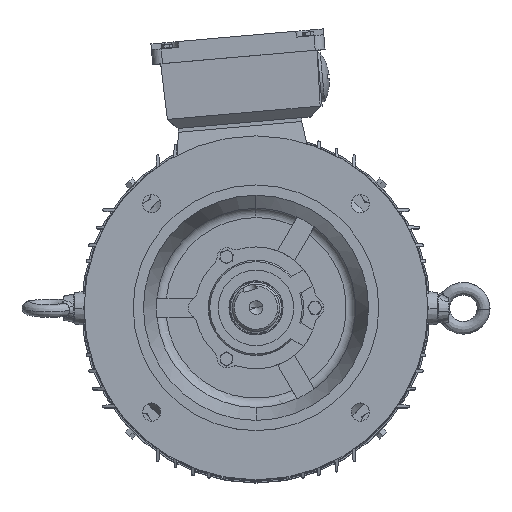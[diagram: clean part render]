
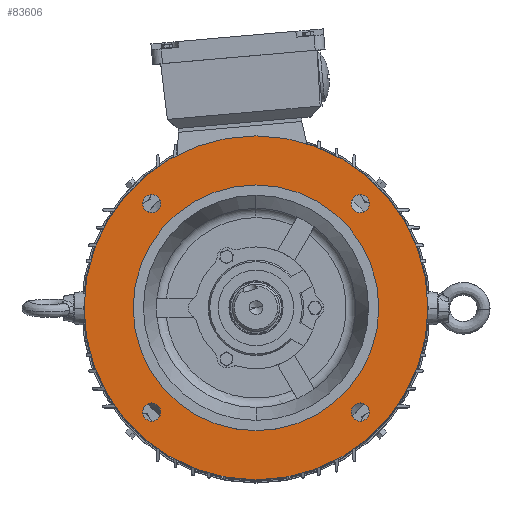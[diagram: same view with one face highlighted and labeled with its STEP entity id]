
A CAD part, top view. The second image highlights one B-rep face of the part: STEP entity #83606.
In plain terms, the highlighted planar face has unit normal (0, 0, 1) as drawn and (-1, 0, 0) by its records, which use the part's own axes.
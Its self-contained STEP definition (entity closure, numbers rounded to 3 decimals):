
#971 = EDGE_CURVE ( 'NONE', #18130, #18210, #74903, .T. ) ;
#974 = EDGE_CURVE ( 'NONE', #18206, #18061, #74908, .T. ) ;
#1126 = EDGE_CURVE ( 'NONE', #18126, #17953, #75072, .T. ) ;
#1138 = EDGE_CURVE ( 'NONE', #17887, #18085, #75081, .T. ) ;
#1147 = EDGE_CURVE ( 'NONE', #17993, #18013, #75090, .T. ) ;
#1159 = EDGE_CURVE ( 'NONE', #18218, #17939, #75099, .T. ) ;
#2761 = EDGE_CURVE ( 'NONE', #18210, #18130, #54825, .T. ) ;
#2763 = EDGE_CURVE ( 'NONE', #18085, #17887, #54823, .T. ) ;
#2769 = EDGE_CURVE ( 'NONE', #17939, #18218, #54820, .T. ) ;
#2785 = EDGE_CURVE ( 'NONE', #18061, #18206, #54836, .T. ) ;
#2807 = EDGE_CURVE ( 'NONE', #18013, #17993, #54880, .T. ) ;
#2809 = EDGE_CURVE ( 'NONE', #17953, #18126, #54882, .T. ) ;
#6545 = EDGE_LOOP ( 'NONE', ( #96139, #95919 ) ) ;
#6593 = EDGE_LOOP ( 'NONE', ( #95852, #96254 ) ) ;
#6601 = EDGE_LOOP ( 'NONE', ( #96005, #95971 ) ) ;
#6613 = EDGE_LOOP ( 'NONE', ( #95704, #96188 ) ) ;
#6617 = EDGE_LOOP ( 'NONE', ( #96241, #95964 ) ) ;
#6625 = EDGE_LOOP ( 'NONE', ( #95770, #96133 ) ) ;
#12658 = CARTESIAN_POINT ( 'NONE',  ( 5., 0., 0. ) ) ;
#12659 = DIRECTION ( 'NONE',  ( -1., 0., 0. ) ) ;
#12660 = DIRECTION ( 'NONE',  ( 0., 0., 1. ) ) ;
#12666 = CARTESIAN_POINT ( 'NONE',  ( 5., 0., 0. ) ) ;
#12667 = DIRECTION ( 'NONE',  ( -1., 0., 0. ) ) ;
#12668 = DIRECTION ( 'NONE',  ( 0., 0., 1. ) ) ;
#17887 = VERTEX_POINT ( 'NONE', #20299 ) ;
#17939 = VERTEX_POINT ( 'NONE', #20342 ) ;
#17953 = VERTEX_POINT ( 'NONE', #20353 ) ;
#17993 = VERTEX_POINT ( 'NONE', #20386 ) ;
#18013 = VERTEX_POINT ( 'NONE', #20405 ) ;
#18061 = VERTEX_POINT ( 'NONE', #20438 ) ;
#18085 = VERTEX_POINT ( 'NONE', #20491 ) ;
#18126 = VERTEX_POINT ( 'NONE', #20559 ) ;
#18130 = VERTEX_POINT ( 'NONE', #20565 ) ;
#18206 = VERTEX_POINT ( 'NONE', #20691 ) ;
#18210 = VERTEX_POINT ( 'NONE', #20697 ) ;
#18218 = VERTEX_POINT ( 'NONE', #20710 ) ;
#20299 = CARTESIAN_POINT ( 'NONE',  ( 5., -106.066, 96.816 ) ) ;
#20342 = CARTESIAN_POINT ( 'NONE',  ( 5., 106.066, -96.816 ) ) ;
#20353 = CARTESIAN_POINT ( 'NONE',  ( 5., 106.066, 115.316 ) ) ;
#20386 = CARTESIAN_POINT ( 'NONE',  ( 5., -106.066, -115.316 ) ) ;
#20405 = CARTESIAN_POINT ( 'NONE',  ( 5., -106.066, -96.816 ) ) ;
#20438 = CARTESIAN_POINT ( 'NONE',  ( 5., 0., -125. ) ) ;
#20491 = CARTESIAN_POINT ( 'NONE',  ( 5., -106.066, 115.316 ) ) ;
#20559 = CARTESIAN_POINT ( 'NONE',  ( 5., 106.066, 96.816 ) ) ;
#20565 = CARTESIAN_POINT ( 'NONE',  ( 5., 0., 175. ) ) ;
#20691 = CARTESIAN_POINT ( 'NONE',  ( 5., 0., 125. ) ) ;
#20697 = CARTESIAN_POINT ( 'NONE',  ( 5., 0., -175. ) ) ;
#20710 = CARTESIAN_POINT ( 'NONE',  ( 5., 106.066, -115.316 ) ) ;
#22996 = FACE_OUTER_BOUND ( 'NONE', #6617, .T. ) ;
#22997 = FACE_BOUND ( 'NONE', #6545, .T. ) ;
#22998 = FACE_BOUND ( 'NONE', #6593, .T. ) ;
#23000 = FACE_BOUND ( 'NONE', #6613, .T. ) ;
#23002 = FACE_BOUND ( 'NONE', #6601, .T. ) ;
#23003 = FACE_BOUND ( 'NONE', #6625, .T. ) ;
#35606 = CARTESIAN_POINT ( 'NONE',  ( 5., 0., 0. ) ) ;
#35607 = DIRECTION ( 'NONE',  ( -1., 0., 0. ) ) ;
#35608 = DIRECTION ( 'NONE',  ( 0., 0., 1. ) ) ;
#35609 = CARTESIAN_POINT ( 'NONE',  ( 5., -106.066, 106.066 ) ) ;
#35610 = DIRECTION ( 'NONE',  ( -1., 0., 0. ) ) ;
#35611 = DIRECTION ( 'NONE',  ( 0., 0., -1. ) ) ;
#35707 = CARTESIAN_POINT ( 'NONE',  ( 5., 106.066, -106.066 ) ) ;
#35708 = DIRECTION ( 'NONE',  ( -1., 0., 0. ) ) ;
#35709 = DIRECTION ( 'NONE',  ( 0., 0., -1. ) ) ;
#35730 = AXIS2_PLACEMENT_3D ( 'NONE', #80344, #80332, #80349 ) ;
#35858 = CARTESIAN_POINT ( 'NONE',  ( 5., 0., 0. ) ) ;
#35859 = DIRECTION ( 'NONE',  ( -1., 0., 0. ) ) ;
#35860 = DIRECTION ( 'NONE',  ( 0., 0., 1. ) ) ;
#35910 = CARTESIAN_POINT ( 'NONE',  ( 5., -106.066, -106.066 ) ) ;
#35911 = DIRECTION ( 'NONE',  ( -1., 0., 0. ) ) ;
#35912 = DIRECTION ( 'NONE',  ( 0., 0., -1. ) ) ;
#35917 = CARTESIAN_POINT ( 'NONE',  ( 5., 106.066, 106.066 ) ) ;
#35918 = DIRECTION ( 'NONE',  ( -1., 0., 0. ) ) ;
#35919 = DIRECTION ( 'NONE',  ( 0., 0., -1. ) ) ;
#54820 = CIRCLE ( 'NONE', #62242, 9.25 ) ;
#54823 = CIRCLE ( 'NONE', #62240, 9.25 ) ;
#54825 = CIRCLE ( 'NONE', #62239, 175. ) ;
#54836 = CIRCLE ( 'NONE', #62245, 125. ) ;
#54880 = CIRCLE ( 'NONE', #62252, 9.25 ) ;
#54882 = CIRCLE ( 'NONE', #62253, 9.25 ) ;
#61868 = AXIS2_PLACEMENT_3D ( 'NONE', #12658, #12659, #12660 ) ;
#61870 = AXIS2_PLACEMENT_3D ( 'NONE', #12666, #12667, #12668 ) ;
#61968 = AXIS2_PLACEMENT_3D ( 'NONE', #97689, #97691, #97693 ) ;
#61973 = AXIS2_PLACEMENT_3D ( 'NONE', #97738, #97740, #97742 ) ;
#61976 = AXIS2_PLACEMENT_3D ( 'NONE', #97768, #97769, #97771 ) ;
#61979 = AXIS2_PLACEMENT_3D ( 'NONE', #97805, #97807, #97809 ) ;
#62239 = AXIS2_PLACEMENT_3D ( 'NONE', #35606, #35607, #35608 ) ;
#62240 = AXIS2_PLACEMENT_3D ( 'NONE', #35609, #35610, #35611 ) ;
#62242 = AXIS2_PLACEMENT_3D ( 'NONE', #35707, #35708, #35709 ) ;
#62245 = AXIS2_PLACEMENT_3D ( 'NONE', #35858, #35859, #35860 ) ;
#62252 = AXIS2_PLACEMENT_3D ( 'NONE', #35910, #35911, #35912 ) ;
#62253 = AXIS2_PLACEMENT_3D ( 'NONE', #35917, #35918, #35919 ) ;
#74903 = CIRCLE ( 'NONE', #61868, 175. ) ;
#74908 = CIRCLE ( 'NONE', #61870, 125. ) ;
#75072 = CIRCLE ( 'NONE', #61968, 9.25 ) ;
#75081 = CIRCLE ( 'NONE', #61973, 9.25 ) ;
#75090 = CIRCLE ( 'NONE', #61976, 9.25 ) ;
#75099 = CIRCLE ( 'NONE', #61979, 9.25 ) ;
#80332 = DIRECTION ( 'NONE',  ( 1., 0., 0. ) ) ;
#80334 = PLANE ( 'NONE',  #35730 ) ;
#80344 = CARTESIAN_POINT ( 'NONE',  ( 5., 125., 0. ) ) ;
#80349 = DIRECTION ( 'NONE',  ( 0., 0., -1. ) ) ;
#83606 = ADVANCED_FACE ( 'NONE', ( #22998, #22997, #23002, #22996, #23000, #23003 ), #80334, .F. ) ;
#95704 = ORIENTED_EDGE ( 'NONE', *, *, #1138, .F. ) ;
#95770 = ORIENTED_EDGE ( 'NONE', *, *, #1159, .F. ) ;
#95852 = ORIENTED_EDGE ( 'NONE', *, *, #1147, .F. ) ;
#95919 = ORIENTED_EDGE ( 'NONE', *, *, #2809, .F. ) ;
#95964 = ORIENTED_EDGE ( 'NONE', *, *, #2761, .T. ) ;
#95971 = ORIENTED_EDGE ( 'NONE', *, *, #2785, .F. ) ;
#96005 = ORIENTED_EDGE ( 'NONE', *, *, #974, .F. ) ;
#96133 = ORIENTED_EDGE ( 'NONE', *, *, #2769, .F. ) ;
#96139 = ORIENTED_EDGE ( 'NONE', *, *, #1126, .F. ) ;
#96188 = ORIENTED_EDGE ( 'NONE', *, *, #2763, .F. ) ;
#96241 = ORIENTED_EDGE ( 'NONE', *, *, #971, .T. ) ;
#96254 = ORIENTED_EDGE ( 'NONE', *, *, #2807, .F. ) ;
#97689 = CARTESIAN_POINT ( 'NONE',  ( 5., 106.066, 106.066 ) ) ;
#97691 = DIRECTION ( 'NONE',  ( -1., 0., 0. ) ) ;
#97693 = DIRECTION ( 'NONE',  ( 0., 0., -1. ) ) ;
#97738 = CARTESIAN_POINT ( 'NONE',  ( 5., -106.066, 106.066 ) ) ;
#97740 = DIRECTION ( 'NONE',  ( -1., 0., 0. ) ) ;
#97742 = DIRECTION ( 'NONE',  ( 0., 0., -1. ) ) ;
#97768 = CARTESIAN_POINT ( 'NONE',  ( 5., -106.066, -106.066 ) ) ;
#97769 = DIRECTION ( 'NONE',  ( -1., 0., 0. ) ) ;
#97771 = DIRECTION ( 'NONE',  ( 0., 0., -1. ) ) ;
#97805 = CARTESIAN_POINT ( 'NONE',  ( 5., 106.066, -106.066 ) ) ;
#97807 = DIRECTION ( 'NONE',  ( -1., 0., 0. ) ) ;
#97809 = DIRECTION ( 'NONE',  ( 0., 0., -1. ) ) ;
